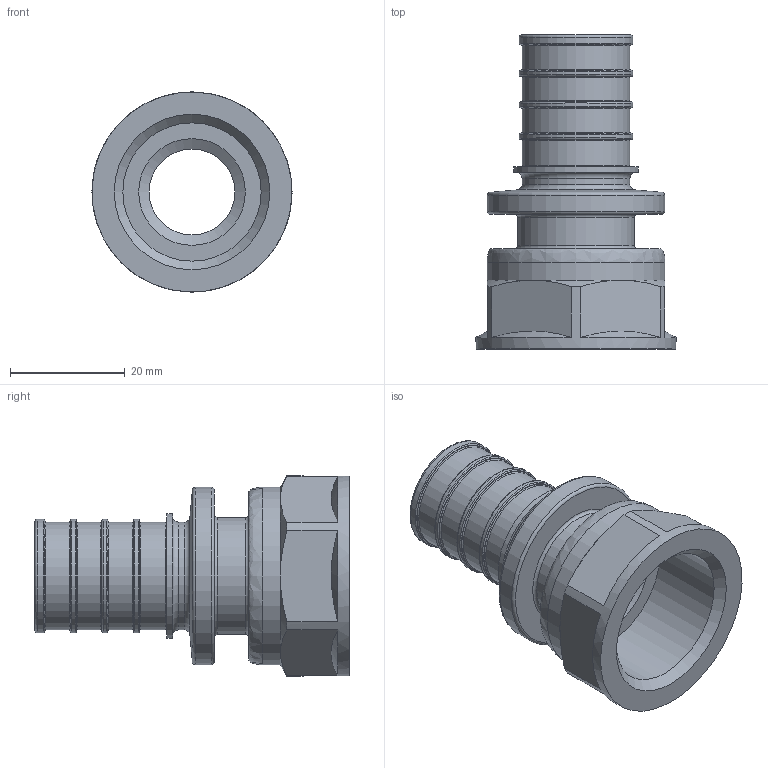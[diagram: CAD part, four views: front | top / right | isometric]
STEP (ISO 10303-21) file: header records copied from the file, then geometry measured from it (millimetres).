
FILE_DESCRIPTION(('STEP AP203'), '1');
FILE_NAME('ﾂﾐ.753124.006 - VTm.402.G.002505 ﾔ頸. 浯葢. G 3-4', '2024-01-23T13:16:07', ('IT'), ('VESTA'), 'C3D Converter', 'C3D Toolkit', '');
FILE_SCHEMA(('CONFIG_CONTROL_DESIGN'));
Length unit declared in the file: millimetre
Products named in the file (1): ВР.753124.006
Bounding box: 34.9 x 54.8 x 34.9 mm (x, y, z)
Volume: 13108.6 mm3; surface area: 9568.4 mm2
Topology: 1 solids, 1 shells, 71 faces, 140 edges, 83 vertices
Faces by surface type: torus 22, plane 20, cylinder 16, cone 12, bspline 1
Full cylindrical faces by diameter (mm): 15 x1, 18.8 x5, 19.8 x4, 20.4 x1, 21.8 x1, 24.118 x1, 30.9 x1, 31 x1, 34.9 x1
Entity records: 2240 total; most frequent: CARTESIAN_POINT 886, DIRECTION 296, ORIENTED_EDGE 194, AXIS2_PLACEMENT_3D 142, EDGE_LOOP 128, EDGE_CURVE 97, VERTEX_POINT 83, FACE_OUTER_BOUND 82
